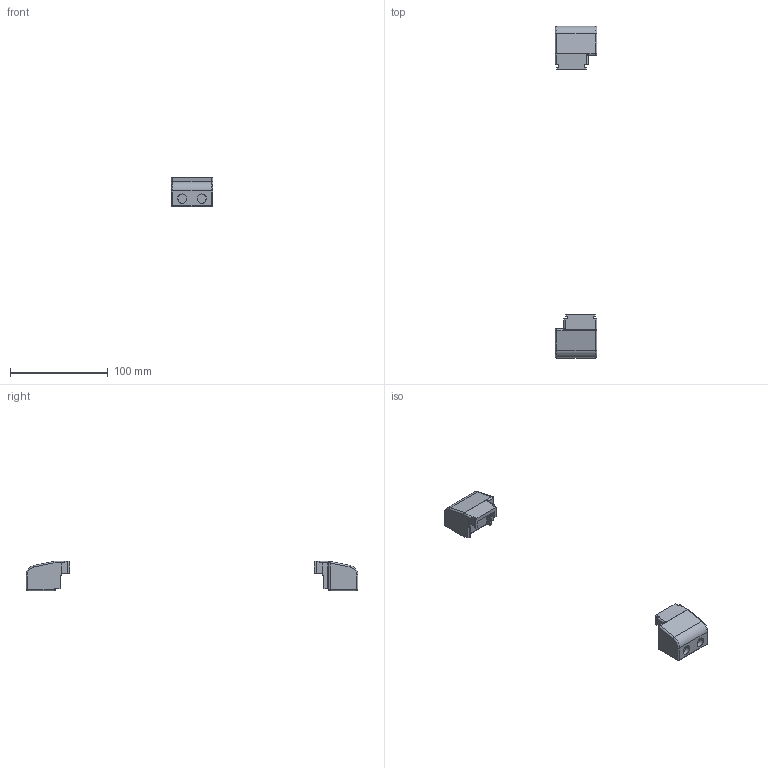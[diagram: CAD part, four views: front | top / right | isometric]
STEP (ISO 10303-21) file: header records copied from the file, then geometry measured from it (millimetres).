
FILE_DESCRIPTION((''),'2;1');
FILE_NAME('DEWI_SR-STD_DMEC_ASSY_280','2015-12-16T',('emanuel.wild'),(''),'PRO/ENGINEER BY PARAMETRIC TECHNOLOGY CORPORATION, 2015200','PRO/ENGINEER BY PARAMETRIC TECHNOLOGY CORPORATION, 2015200','');
FILE_SCHEMA(('AUTOMOTIVE_DESIGN { 1 0 10303 214 1 1 1 1 }'));
Length unit declared in the file: millimetre
Products named in the file (2): DEWI_SR-STD_DMEC; DEWI_SR-STD_DMEC_ASSY_280
Assembly tree (2 placements, depth 2):
  DEWI_SR-STD_DMEC_ASSY_280
    DEWI_SR-STD_DMEC  x2
Bounding box: 42.8 x 340 x 29.8 mm (x, y, z)
Volume: 66408.4 mm3; surface area: 18943.6 mm2
Topology: 2 solids, 2 shells, 196 faces, 504 edges, 316 vertices
Faces by surface type: plane 112, cylinder 58, bspline 12, sphere 8, torus 6
Entity records: 3847 total; most frequent: CARTESIAN_POINT 770, DIRECTION 504, ORIENTED_EDGE 504, EDGE_CURVE 252, VECTOR 180, LINE 180, AXIS2_PLACEMENT_3D 162, VERTEX_POINT 158
